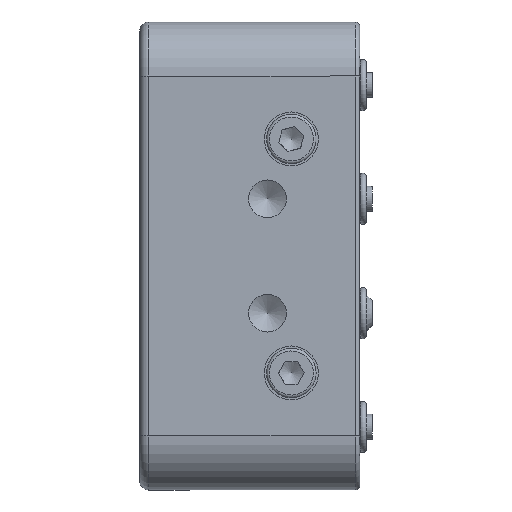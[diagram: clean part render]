
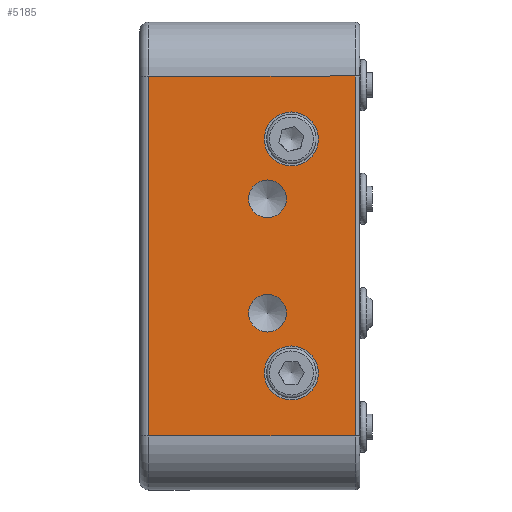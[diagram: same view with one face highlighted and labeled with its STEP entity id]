
A CAD part, left-side view. The second image highlights one B-rep face of the part: STEP entity #5185.
In plain terms, the highlighted planar face has unit normal (-1, 0, 0).
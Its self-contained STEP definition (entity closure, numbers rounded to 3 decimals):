
#214=FACE_BOUND('',#834,.T.);
#215=FACE_BOUND('',#835,.T.);
#216=FACE_BOUND('',#836,.T.);
#217=FACE_BOUND('',#837,.T.);
#293=PLANE('',#5777);
#522=FACE_OUTER_BOUND('',#833,.T.);
#833=EDGE_LOOP('',(#4191,#4192,#4193,#4194));
#834=EDGE_LOOP('',(#4195,#4196));
#835=EDGE_LOOP('',(#4197,#4198));
#836=EDGE_LOOP('',(#4199,#4200));
#837=EDGE_LOOP('',(#4201,#4202));
#1011=LINE('',#8131,#1305);
#1118=LINE('',#9309,#1412);
#1145=LINE('',#9428,#1439);
#1146=LINE('',#9430,#1440);
#1305=VECTOR('',#6510,10.);
#1412=VECTOR('',#6967,10.);
#1439=VECTOR('',#7110,10.);
#1440=VECTOR('',#7113,10.);
#1733=CIRCLE('',#5655,2.1);
#1734=CIRCLE('',#5656,2.1);
#1737=CIRCLE('',#5661,2.1);
#1738=CIRCLE('',#5662,2.1);
#1798=CIRCLE('',#5761,3.);
#1799=CIRCLE('',#5762,3.);
#1804=CIRCLE('',#5770,3.);
#1805=CIRCLE('',#5771,3.);
#2082=VERTEX_POINT('',#8124);
#2084=VERTEX_POINT('',#8130);
#2184=VERTEX_POINT('',#8562);
#2185=VERTEX_POINT('',#8563);
#2191=VERTEX_POINT('',#8675);
#2192=VERTEX_POINT('',#8676);
#2245=VERTEX_POINT('',#9301);
#2247=VERTEX_POINT('',#9307);
#2273=VERTEX_POINT('',#9398);
#2274=VERTEX_POINT('',#9399);
#2279=VERTEX_POINT('',#9415);
#2280=VERTEX_POINT('',#9416);
#2667=EDGE_CURVE('',#2082,#2084,#1011,.T.);
#2815=EDGE_CURVE('',#2184,#2185,#1733,.T.);
#2816=EDGE_CURVE('',#2185,#2184,#1734,.T.);
#2823=EDGE_CURVE('',#2191,#2192,#1737,.T.);
#2824=EDGE_CURVE('',#2192,#2191,#1738,.T.);
#2899=EDGE_CURVE('',#2247,#2245,#1118,.T.);
#2945=EDGE_CURVE('',#2273,#2274,#1798,.T.);
#2946=EDGE_CURVE('',#2274,#2273,#1799,.T.);
#2953=EDGE_CURVE('',#2279,#2280,#1804,.T.);
#2954=EDGE_CURVE('',#2280,#2279,#1805,.T.);
#2959=EDGE_CURVE('',#2245,#2082,#1145,.T.);
#2960=EDGE_CURVE('',#2084,#2247,#1146,.T.);
#4191=ORIENTED_EDGE('',*,*,#2899,.F.);
#4192=ORIENTED_EDGE('',*,*,#2960,.F.);
#4193=ORIENTED_EDGE('',*,*,#2667,.F.);
#4194=ORIENTED_EDGE('',*,*,#2959,.F.);
#4195=ORIENTED_EDGE('',*,*,#2815,.T.);
#4196=ORIENTED_EDGE('',*,*,#2816,.T.);
#4197=ORIENTED_EDGE('',*,*,#2823,.T.);
#4198=ORIENTED_EDGE('',*,*,#2824,.T.);
#4199=ORIENTED_EDGE('',*,*,#2945,.T.);
#4200=ORIENTED_EDGE('',*,*,#2946,.T.);
#4201=ORIENTED_EDGE('',*,*,#2953,.T.);
#4202=ORIENTED_EDGE('',*,*,#2954,.T.);
#5185=ADVANCED_FACE('',(#522,#214,#215,#216,#217),#293,.T.);
#5655=AXIS2_PLACEMENT_3D('',#8564,#6812,#6813);
#5656=AXIS2_PLACEMENT_3D('',#8565,#6814,#6815);
#5661=AXIS2_PLACEMENT_3D('',#8677,#6826,#6827);
#5662=AXIS2_PLACEMENT_3D('',#8678,#6828,#6829);
#5761=AXIS2_PLACEMENT_3D('',#9400,#7073,#7074);
#5762=AXIS2_PLACEMENT_3D('',#9401,#7075,#7076);
#5770=AXIS2_PLACEMENT_3D('',#9417,#7093,#7094);
#5771=AXIS2_PLACEMENT_3D('',#9418,#7095,#7096);
#5777=AXIS2_PLACEMENT_3D('',#9429,#7111,#7112);
#6510=DIRECTION('',(0.,0.,1.));
#6812=DIRECTION('center_axis',(1.,0.,0.));
#6813=DIRECTION('ref_axis',(0.,0.,
1.));
#6814=DIRECTION('center_axis',(1.,0.,0.));
#6815=DIRECTION('ref_axis',(0.,0.,
1.));
#6826=DIRECTION('center_axis',(1.,0.,0.));
#6827=DIRECTION('ref_axis',(0.,0.,
1.));
#6828=DIRECTION('center_axis',(1.,0.,0.));
#6829=DIRECTION('ref_axis',(0.,0.,
1.));
#6967=DIRECTION('',(0.,0.,-1.));
#7073=DIRECTION('center_axis',(1.,0.,0.));
#7074=DIRECTION('ref_axis',(0.,0.,
1.));
#7075=DIRECTION('center_axis',(1.,0.,0.));
#7076=DIRECTION('ref_axis',(0.,0.,
1.));
#7093=DIRECTION('center_axis',(1.,0.,0.));
#7094=DIRECTION('ref_axis',(0.,0.,
1.));
#7095=DIRECTION('center_axis',(1.,0.,0.));
#7096=DIRECTION('ref_axis',(0.,0.,
1.));
#7110=DIRECTION('',(0.,1.,0.));
#7111=DIRECTION('center_axis',(-1.,0.,0.));
#7112=DIRECTION('ref_axis',(0.,-1.,0.));
#7113=DIRECTION('',(0.,-1.,0.));
#8124=CARTESIAN_POINT('',(-19.05,28.6,-20.));
#8130=CARTESIAN_POINT('',(-19.05,28.6,20.));
#8131=CARTESIAN_POINT('',(-19.05,28.6,-13.));
#8562=CARTESIAN_POINT('',(-19.05,15.4,-4.25));
#8563=CARTESIAN_POINT('',(-19.05,15.4,-8.45));
#8564=CARTESIAN_POINT('Origin',(-19.05,15.4,-6.35));
#8565=CARTESIAN_POINT('Origin',(-19.05,15.4,-6.35));
#8675=CARTESIAN_POINT('',(-19.05,15.4,8.45));
#8676=CARTESIAN_POINT('',(-19.05,15.4,4.25));
#8677=CARTESIAN_POINT('Origin',(-19.05,15.4,6.35));
#8678=CARTESIAN_POINT('Origin',(-19.05,15.4,6.35));
#9301=CARTESIAN_POINT('',(-19.05,5.65,-20.));
#9307=CARTESIAN_POINT('',(-19.05,5.65,20.));
#9309=CARTESIAN_POINT('',(-19.05,5.65,-13.));
#9398=CARTESIAN_POINT('',(-19.05,12.75,16.));
#9399=CARTESIAN_POINT('',(-19.05,12.75,10.));
#9400=CARTESIAN_POINT('Origin',(-19.05,12.75,13.));
#9401=CARTESIAN_POINT('Origin',(-19.05,12.75,13.));
#9415=CARTESIAN_POINT('',(-19.05,12.75,-10.));
#9416=CARTESIAN_POINT('',(-19.05,12.75,-16.));
#9417=CARTESIAN_POINT('Origin',(-19.05,12.75,-13.));
#9418=CARTESIAN_POINT('Origin',(-19.05,12.75,-13.));
#9428=CARTESIAN_POINT('',(-19.05,24.1,-20.));
#9429=CARTESIAN_POINT('Origin',(-19.05,24.1,-26.));
#9430=CARTESIAN_POINT('',(-19.05,29.6,20.));
